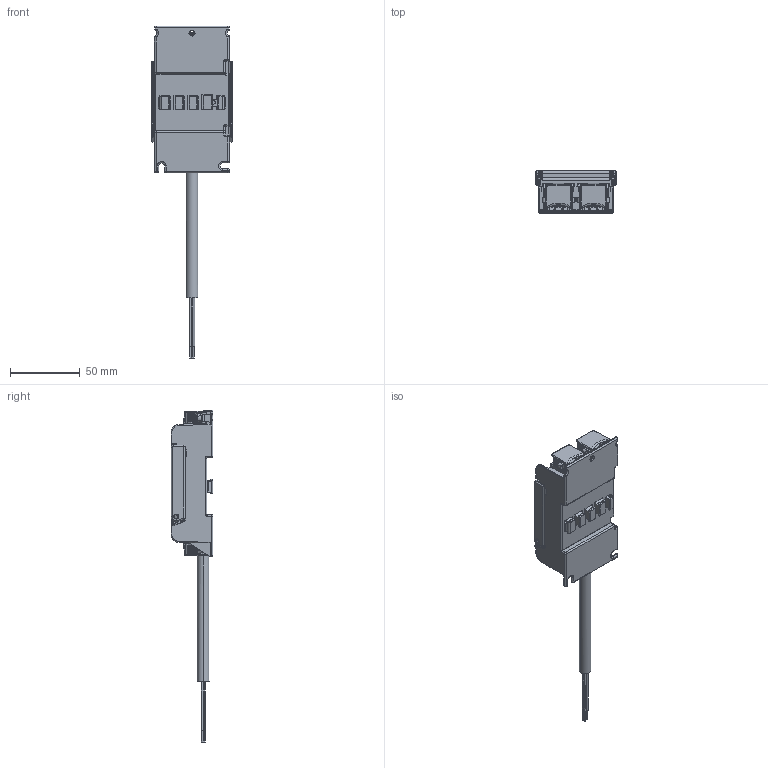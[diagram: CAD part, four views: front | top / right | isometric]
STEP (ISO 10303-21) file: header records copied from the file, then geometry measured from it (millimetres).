
FILE_DESCRIPTION((''),'2;1');
FILE_NAME('15014529Z_DMEC_LINECT-BOX_5P','2021-10-20T12:32:23',('Emanuel.Wild'),(''),'CREO PARAMETRIC BY PTC INC, 2019164','CREO PARAMETRIC BY PTC INC, 2019164','');
FILE_SCHEMA(('CONFIG_CONTROL_DESIGN'));
Products named in the file (1): 15014529Z_DMEC_LINECT-BOX_5P
Bounding box: 57.8 x 30 x 237.25 mm (x, y, z)
Volume: 57122.3 mm3; surface area: 65842.7 mm2
Topology: 2 solids, 2 shells, 3975 faces, 10950 edges, 6970 vertices
Faces by surface type: plane 2082, cylinder 1344, bspline 321, sphere 98, cone 80, torus 50
Entity records: 143614 total; most frequent: CARTESIAN_POINT 46225, ORIENTED_EDGE 21900, DIRECTION 18094, EDGE_CURVE 10950, VECTOR 7234, LINE 7234, VERTEX_POINT 6970, AXIS2_PLACEMENT_3D 5430
